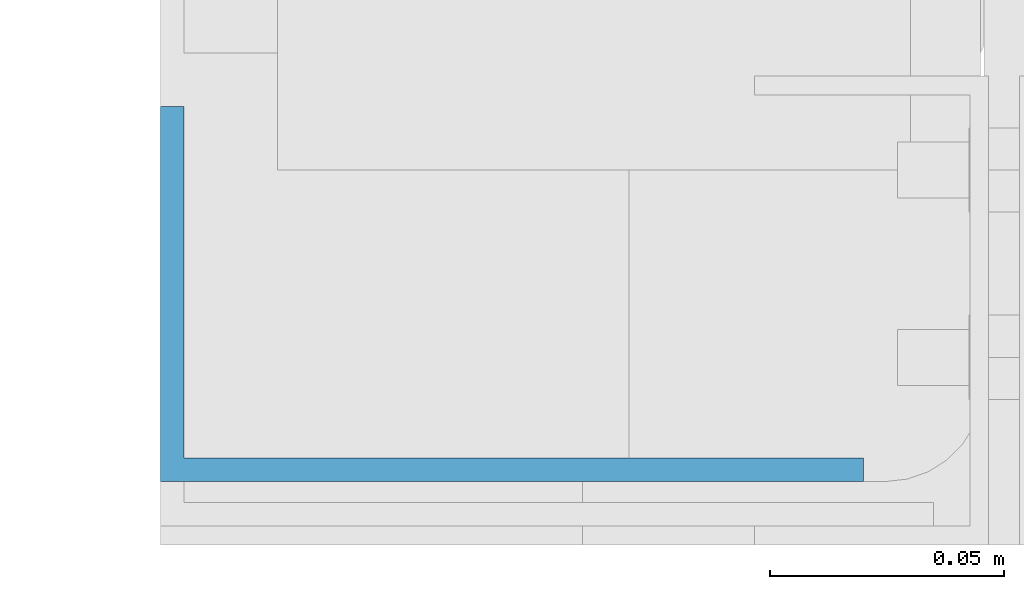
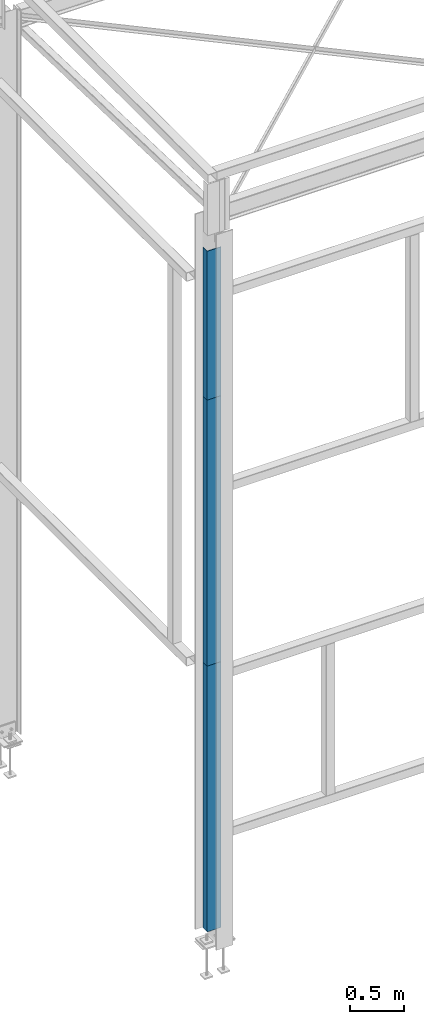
# One storey, part 114 of 123: 3 beams, 3 elements without a shape of their own.
"""IFC2X3 building model written with IfcOpenShell, lengths in millimetres."""

from ifc_helpers import new_model, si_unit, frame, origin_with_axes, place, context, subcontext, project, spatial, faceted_brep, material, type_object, element, aggregate, save


model = new_model("IFC2X3")

# Units and contexts
model_context = context("Model", 3, precision=1e-05, world=origin_with_axes())
body_context = subcontext(model_context, "Body", "Model", "MODEL_VIEW")
ifc_project = project(units=[si_unit("LENGTHUNIT", "METRE", prefix="MILLI"), si_unit("AREAUNIT", "SQUARE_METRE"), si_unit("VOLUMEUNIT", "CUBIC_METRE"), si_unit("MASSUNIT", "GRAM", prefix="KILO"), si_unit("TIMEUNIT", "SECOND"), si_unit("PLANEANGLEUNIT", "RADIAN"), si_unit("SOLIDANGLEUNIT", "STERADIAN"), si_unit("THERMODYNAMICTEMPERATUREUNIT", "DEGREE_CELSIUS"), si_unit("LUMINOUSINTENSITYUNIT", "LUMEN")], contexts=[model_context])

# Site, building, storey
site_placement = place(None, origin_with_axes())
site = spatial("IfcSite", under=ifc_project, at=site_placement, Name="Undefined", CompositionType="ELEMENT")
building_placement = place(site_placement, origin_with_axes())
building = spatial("IfcBuilding", under=site, at=building_placement, Name="Undefined", CompositionType="ELEMENT")
storey_placement = place(building_placement, origin_with_axes())
storey = spatial("IfcBuildingStorey", under=building, at=storey_placement, Name="Undefined", CompositionType="ELEMENT", Elevation=0.0)

# Assembly, beam
assembly_1_placement = place(storey_placement, origin_with_axes())
assembly_1 = element("IfcElementAssembly", 1, at=assembly_1_placement, inside=storey, Name="Steel Assembly", AssemblyPlace="NOTDEFINED", PredefinedType="RIGID_FRAME")
ifc_material = material(Name="STEEL/S235-E24")
beam_type_1 = type_object("IfcBeamType", Name="PL5*3000", PredefinedType="NOTDEFINED")
beam_1_placement = place(assembly_1_placement, frame((-29.9998850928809, -163.995381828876, 4500.00003102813), z_axis=(0.0, 0.0, 1.0), x_axis=(-1.0, 0.0, 0.0)))
beam_1 = element("IfcBeam", 2, at=beam_1_placement, type_object=beam_type_1, material=ifc_material, Name="FEUILLURE", ObjectType="PL5*3000", context=body_context, shape_type="Brep", body=[
    faceted_brep([(1.43700162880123e-09, -2.5, -1500.0), (6.47560227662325e-10, -2.49999999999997, 1500.0), (-1.43700162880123e-09, 2.50000000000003, 1500.0), (-6.43922248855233e-10, 2.5, -1500.0), (150.00003036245, 2.49999991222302, 1499.99999999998), (150.000030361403, 2.49999991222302, -1500.00000000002), (145.000030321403, -2.50000008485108, -1500.00000000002), (145.00003032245, -2.50000008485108, 1499.99999999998), (150.000029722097, -77.5000010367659, 1499.99999999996), (150.000029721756, -77.5000010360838, -1500.00000000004), (145.000029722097, -77.5000009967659, 1499.99999999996), (145.000029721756, -77.5000009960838, -1500.00000000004)], [[[0, 1, 2, 3]], [[3, 2, 4, 5]], [[1, 0, 6, 7]], [[5, 4, 8, 9]], [[4, 2, 1, 7, 10, 8]], [[7, 6, 11, 10]], [[6, 0, 3, 5, 9, 11]], [[10, 11, 9, 8]]]),
])
aggregate(assembly_1, [beam_1])

assembly_2_placement = place(storey_placement, origin_with_axes())
assembly_2 = element("IfcElementAssembly", 3, at=assembly_2_placement, inside=storey, Name="Steel Assembly", AssemblyPlace="NOTDEFINED", PredefinedType="RIGID_FRAME")
beam_2_placement = place(assembly_2_placement, frame((-29.9998851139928, -163.995385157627, 1500.00001560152), z_axis=(0.0, 0.0, 1.0), x_axis=(-1.0, 0.0, 0.0)))
beam_2 = element("IfcBeam", 4, at=beam_2_placement, type_object=beam_type_1, material=ifc_material, Name="FEUILLURE", ObjectType="PL5*3000", context=body_context, shape_type="Brep", body=[
    faceted_brep([(1.43700162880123e-09, -2.5, -1500.0), (6.47560227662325e-10, -2.49999999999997, 1500.0), (-1.43700162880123e-09, 2.50000000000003, 1500.0), (-6.43922248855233e-10, 2.5, -1500.0), (150.00003036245, 2.49999991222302, 1499.99999999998), (150.000030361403, 2.49999991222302, -1500.00000000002), (145.000030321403, -2.50000008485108, -1500.00000000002), (145.00003032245, -2.50000008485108, 1499.99999999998), (150.000029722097, -77.5000010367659, 1499.99999999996), (150.000029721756, -77.5000010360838, -1500.00000000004), (145.000029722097, -77.5000009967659, 1499.99999999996), (145.000029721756, -77.5000009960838, -1500.00000000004)], [[[0, 1, 2, 3]], [[3, 2, 4, 5]], [[1, 0, 6, 7]], [[5, 4, 8, 9]], [[4, 2, 1, 7, 10, 8]], [[7, 6, 11, 10]], [[6, 0, 3, 5, 9, 11]], [[10, 11, 9, 8]]]),
])
aggregate(assembly_2, [beam_2])

assembly_3_placement = place(storey_placement, origin_with_axes())
assembly_3 = element("IfcElementAssembly", 5, at=assembly_3_placement, inside=storey, Name="Steel Assembly", AssemblyPlace="NOTDEFINED", PredefinedType="RIGID_FRAME")
beam_type_2 = type_object("IfcBeamType", Name="PL5*1680", PredefinedType="NOTDEFINED")
beam_3_placement = place(assembly_3_placement, frame((-29.9998850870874, -163.995380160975, 6840.0000464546), z_axis=(0.0, 0.0, 1.0), x_axis=(-1.0, 0.0, 0.0)))
beam_3 = element("IfcBeam", 6, at=beam_3_placement, type_object=beam_type_2, material=ifc_material, Name="FEUILLURE", ObjectType="PL5*1680", context=body_context, shape_type="Brep", body=[
    faceted_brep([(1.03705488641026e-09, -2.5, -840.0), (1.03705488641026e-09, -2.5, 840.0), (-1.0370477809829e-09, 2.5, 840.0), (-1.0370477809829e-09, 2.5, -840.0), (150.000030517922, 2.50000006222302, 840.0), (150.000030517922, 2.50000006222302, -840.0), (145.000030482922, -2.49999993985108, -840.0), (145.000030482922, -2.49999993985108, 840.0), (150.000029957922, -77.5000010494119, 840.0), (150.000029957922, -77.5000010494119, -840.0), (145.000029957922, -77.5000010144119, 840.0), (145.000029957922, -77.5000010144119, -840.0)], [[[0, 1, 2, 3]], [[3, 2, 4, 5]], [[1, 0, 6, 7]], [[5, 4, 8, 9]], [[4, 2, 1, 7, 10, 8]], [[7, 6, 11, 10]], [[6, 0, 3, 5, 9, 11]], [[10, 11, 9, 8]]]),
])
aggregate(assembly_3, [beam_3])

save(model, "model.ifc")
